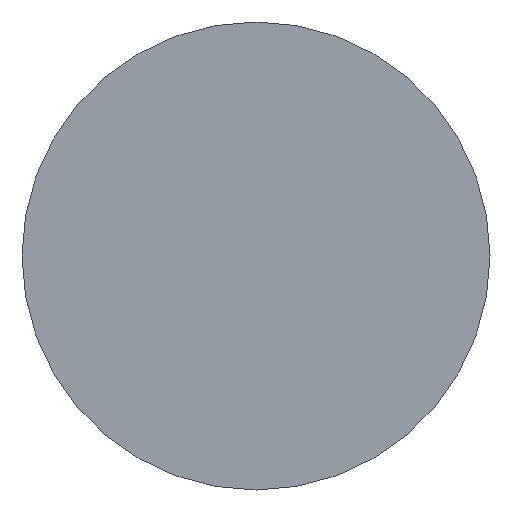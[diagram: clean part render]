
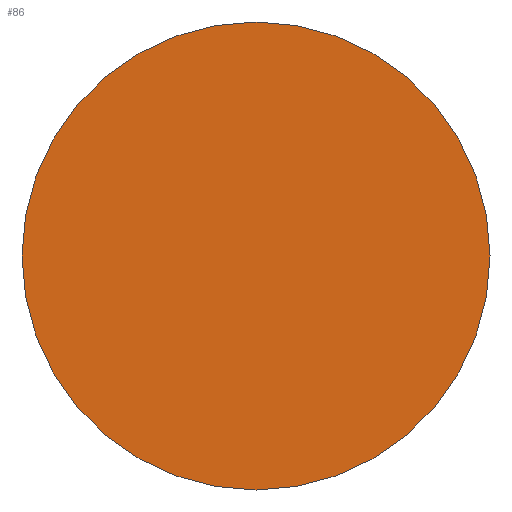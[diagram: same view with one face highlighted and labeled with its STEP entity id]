
A CAD part, left-side view. The second image highlights one B-rep face of the part: STEP entity #86.
In plain terms, the highlighted planar face has unit normal (-1, 0, 0).
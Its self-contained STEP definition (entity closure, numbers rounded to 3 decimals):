
#10 = DIRECTION ( 'NONE',  ( 0., -1., 0. ) ) ;
#12 = CARTESIAN_POINT ( 'NONE',  ( 0., 0., 0. ) ) ;
#13 = DIRECTION ( 'NONE',  ( -1., 0., 0. ) ) ;
#26 = CARTESIAN_POINT ( 'NONE',  ( 0., 0., 0. ) ) ;
#40 = EDGE_CURVE ( 'NONE', #150, #121, #105, .T. ) ;
#43 = CARTESIAN_POINT ( 'NONE',  ( 0., 0., 0. ) ) ;
#47 = DIRECTION ( 'NONE',  ( 0., 1., 0. ) ) ;
#86 = ADVANCED_FACE ( 'NONE', ( #157 ), #268, .T. ) ;
#87 = DIRECTION ( 'NONE',  ( 0., 1., 0. ) ) ;
#88 = AXIS2_PLACEMENT_3D ( 'NONE', #12, #13, #10 ) ;
#103 = AXIS2_PLACEMENT_3D ( 'NONE', #26, #261, #87 ) ;
#105 = CIRCLE ( 'NONE', #251, 9. ) ;
#121 = VERTEX_POINT ( 'NONE', #169 ) ;
#123 = ORIENTED_EDGE ( 'NONE', *, *, #246, .F. ) ;
#128 = EDGE_LOOP ( 'NONE', ( #191, #123 ) ) ;
#147 = DIRECTION ( 'NONE',  ( 1., 0., 0. ) ) ;
#150 = VERTEX_POINT ( 'NONE', #151 ) ;
#151 = CARTESIAN_POINT ( 'NONE',  ( 0., 9., 0. ) ) ;
#157 = FACE_OUTER_BOUND ( 'NONE', #128, .T. ) ;
#169 = CARTESIAN_POINT ( 'NONE',  ( 0., -9., 0. ) ) ;
#191 = ORIENTED_EDGE ( 'NONE', *, *, #40, .F. ) ;
#233 = CIRCLE ( 'NONE', #103, 9. ) ;
#246 = EDGE_CURVE ( 'NONE', #121, #150, #233, .T. ) ;
#251 = AXIS2_PLACEMENT_3D ( 'NONE', #43, #147, #47 ) ;
#261 = DIRECTION ( 'NONE',  ( 1., 0., 0. ) ) ;
#268 = PLANE ( 'NONE',  #88 ) ;
